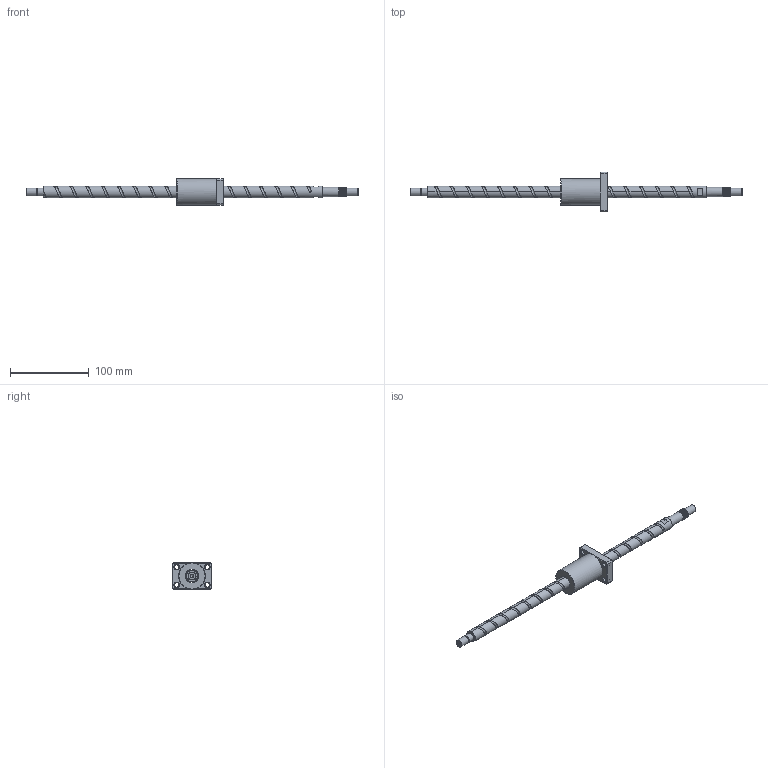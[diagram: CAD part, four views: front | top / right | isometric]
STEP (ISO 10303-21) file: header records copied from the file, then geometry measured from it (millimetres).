
FILE_DESCRIPTION (( 'STEP AP203' ), '1' );
FILE_NAME ('XSVR01520A1DGC5-421-P1.step', '2024-06-03T05:37:00', ( '' ), ( '' ), 'SwSTEP 2.0', 'SolidWorks 2022', '' );
FILE_SCHEMA (( 'CONFIG_CONTROL_DESIGN' ));
Length unit declared in the file: millimetre
Products named in the file (1): XSVR01520A1DGC5-421-P1
Bounding box: 421 x 50 x 34 mm (x, y, z)
Volume: 112117 mm3; surface area: 34459.9 mm2
Topology: 2 solids, 2 shells, 147 faces, 395 edges, 258 vertices
Faces by surface type: cylinder 70, plane 43, cone 15, bspline 10, torus 9
Full cylindrical faces by diameter (mm): 4 x1, 4.2 x15, 5 x6, 5.5 x4, 9.5 x4, 9.6 x1, 10 x3, 12 x9, 15 x17, 17 x1, 34 x1
Entity records: 14550 total; most frequent: CARTESIAN_POINT 12422, ORIENTED_EDGE 410, DIRECTION 391, EDGE_CURVE 205, AXIS2_PLACEMENT_3D 168, EDGE_LOOP 153, VERTEX_POINT 150, FACE_OUTER_BOUND 120
